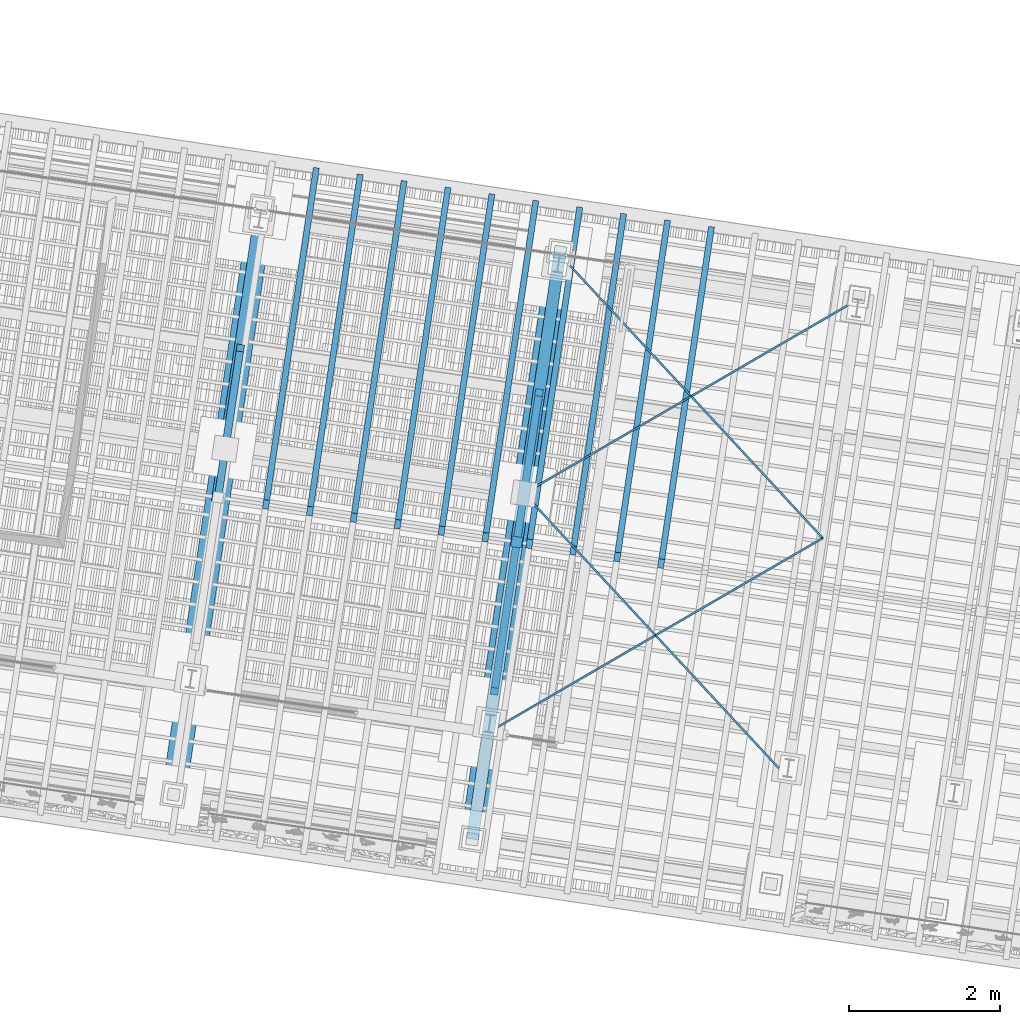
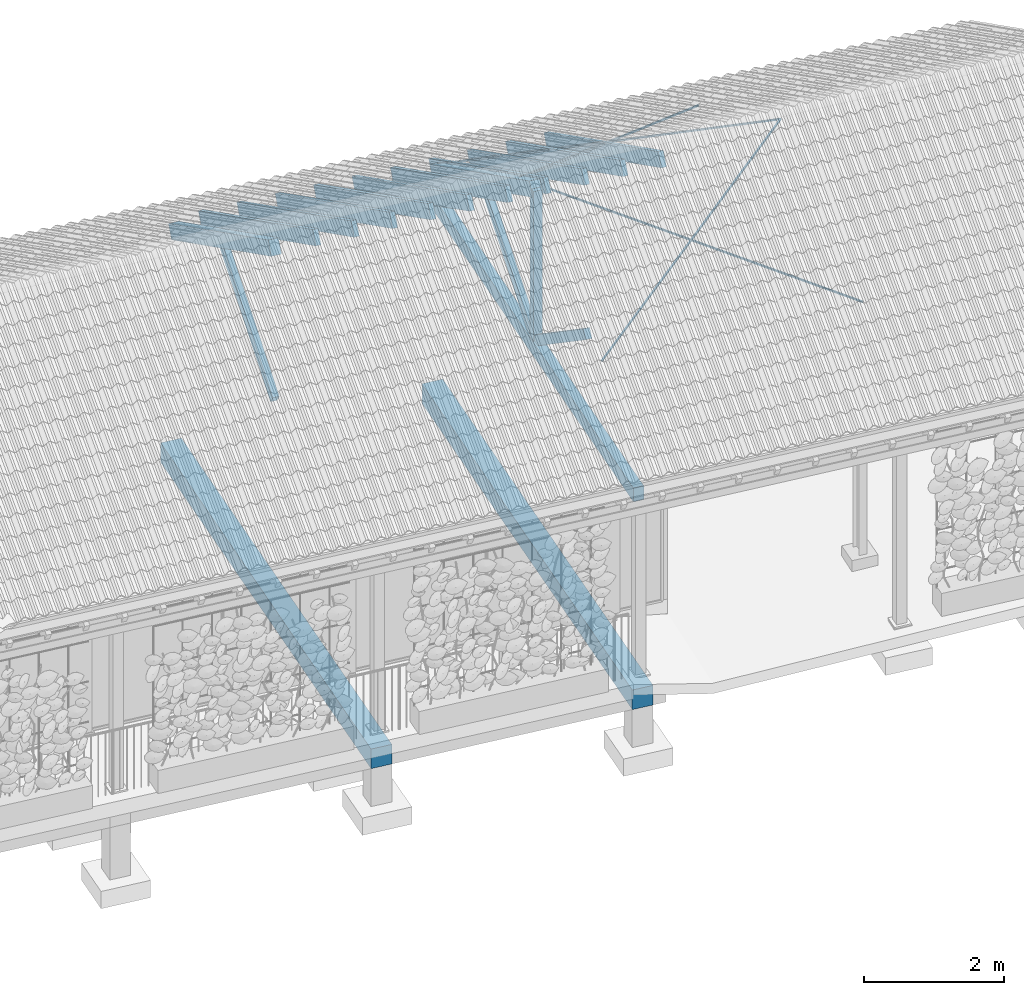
# One storey, part 95 of 131: 20 members, 3 beams, 2 elements without a shape of their own.
"""IFC4 building model written with IfcOpenShell, lengths in metres."""

from ifc_helpers import new_model, si_unit, direction, frame, origin_with_axes, place, context, subcontext, project, spatial, polyline, rectangle, outline, extrude, material, material_profile, profile_set, profile_usage, type_object, element, aggregate, save


model = new_model("IFC4")

# Units and contexts
model_context = context("Model", 3, precision=1e-05, world=origin_with_axes(), true_north=direction((0.0, 1.0)))
body_context = subcontext(model_context, "Body", "Model", "MODEL_VIEW")
ifc_project = project(units=[si_unit("AREAUNIT", "SQUARE_METRE"), si_unit("VOLUMEUNIT", "CUBIC_METRE"), si_unit("LENGTHUNIT", "METRE")], contexts=[model_context])

# Site, building, storey
site_placement = place(None, origin_with_axes())
site = spatial("IfcSite", under=ifc_project, at=site_placement, Name="Lares · Rua das Mercês · artigo 4771")
building_placement = place(site_placement, frame((15.0, 9.7, 14.65), z_axis=(0.0, 0.0, 1.0), x_axis=(0.989015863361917, -0.147809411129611, 0.0)))
building = spatial("IfcBuilding", under=site, at=building_placement, Name="Casa Sobreposta")
storey_placement = place(building_placement, origin_with_axes())
storey = spatial("IfcBuildingStorey", under=building, at=storey_placement, Name="00 · Habitação e estacionamento", Elevation=14.65)

# Roof, beam, members
ifc_material_1 = material(Name="Madeira / Bauholz", Category="wood")
roof_placement = place(storey_placement, origin_with_axes())
roof = element("IfcRoof", 1, at=roof_placement, inside=storey, material=ifc_material_1, Name="Cobertura de telha · duas águas 30 graus", PredefinedType="GABLE_ROOF")
ifc_material_profile_1 = material_profile(ifc_material_1, rectangle(XDim=0.16, YDim=0.24))
ifc_profile_set_1 = profile_set([ifc_material_profile_1], Name="TIMBER0.160x0.240")
ifc_profile_usage_1 = profile_usage(ifc_profile_set_1)
beam_type = type_object("IfcBeamType", Name="TIMBER0.160x0.240 / timber", PredefinedType="NOTDEFINED", material=ifc_profile_set_1)
beam_1_placement = place(roof_placement, frame((24.0, -1.43, 3.02), z_axis=(0.0, 1.0, 0.0), x_axis=(1.0, 0.0, 0.0)))
beam_1 = element("IfcBeam", 2, at=beam_1_placement, type_object=beam_type, material=ifc_profile_usage_1, Name="Tesoura · tirante inferior", context=body_context, shape_type="SweptSolid", body=[
    extrude(rectangle(XDim=0.16, YDim=0.24), origin_with_axes(), (0.0, 0.0, 1.0), 7.86),
])
ifc_material_profile_2 = material_profile(ifc_material_1, rectangle(XDim=0.16, YDim=0.24))
ifc_profile_set_2 = profile_set([ifc_material_profile_2], Name="TIMBER0.160x0.240")
ifc_profile_usage_2 = profile_usage(ifc_profile_set_2)
member_type_1 = type_object("IfcMemberType", Name="TIMBER0.160x0.240 / timber", PredefinedType="NOTDEFINED", material=ifc_profile_set_2)
member_1_placement = place(roof_placement, frame((20.0, 2.55, 5.74420869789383), z_axis=(0.0, 0.866025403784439, -0.5), x_axis=(1.0, 0.0, 0.0)))
member_1 = element("IfcMember", 3, at=member_1_placement, type_object=member_type_1, material=ifc_profile_usage_2, Name="Tesoura · perna", context=body_context, shape_type="SweptSolid", body=[
    extrude(rectangle(XDim=0.16, YDim=0.24), origin_with_axes(), (0.0, 0.0, 1.0), 4.4802380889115),
])
ifc_profile_usage_3 = profile_usage(ifc_profile_set_2)
member_2_placement = place(roof_placement, frame((24.0, 2.55, 5.74420869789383), z_axis=(0.0, 0.866025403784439, -0.5), x_axis=(1.0, 0.0, 0.0)))
member_2 = element("IfcMember", 4, at=member_2_placement, type_object=member_type_1, material=ifc_profile_usage_3, Name="Tesoura · perna", context=body_context, shape_type="SweptSolid", body=[
    extrude(rectangle(XDim=0.16, YDim=0.24), origin_with_axes(), (0.0, 0.0, 1.0), 4.4802380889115),
])
ifc_material_profile_3 = material_profile(ifc_material_1, rectangle(XDim=0.14, YDim=0.14))
ifc_profile_set_3 = profile_set([ifc_material_profile_3], Name="TIMBER0.140x0.140")
ifc_profile_usage_4 = profile_usage(ifc_profile_set_3)
member_type_2 = type_object("IfcMemberType", Name="TIMBER0.140x0.140 / timber", PredefinedType="NOTDEFINED", material=ifc_profile_set_3)
member_3_placement = place(roof_placement, frame((24.0, 2.55, 3.02), z_axis=(0.0, 0.0, 1.0), x_axis=(1.0, 0.0, 0.0)))
member_3 = element("IfcMember", 5, at=member_3_placement, type_object=member_type_2, material=ifc_profile_usage_4, Name="Tesoura · pendural", context=body_context, shape_type="SweptSolid", body=[
    extrude(rectangle(XDim=0.14, YDim=0.14), origin_with_axes(), (0.0, 0.0, 1.0), 2.72420869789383),
])
ifc_material_profile_4 = material_profile(ifc_material_1, rectangle(XDim=0.1, YDim=0.16))
ifc_profile_set_4 = profile_set([ifc_material_profile_4], Name="TIMBER0.100x0.160")
ifc_profile_usage_5 = profile_usage(ifc_profile_set_4)
member_type_3 = type_object("IfcMemberType", Name="TIMBER0.100x0.160 / timber", PredefinedType="NOTDEFINED", material=ifc_profile_set_4)
member_4_placement = place(roof_placement, frame((20.0, 2.55, 3.1), z_axis=(0.0, 0.816439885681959, 0.577430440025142), x_axis=(1.0, 0.0, 0.0)))
member_4 = element("IfcMember", 6, at=member_4_placement, type_object=member_type_3, material=ifc_profile_usage_5, Name="Tesoura · escora", context=body_context, shape_type="SweptSolid", body=[
    extrude(rectangle(XDim=0.1, YDim=0.16), origin_with_axes(), (0.0, 0.0, 1.0), 2.44965984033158),
])
ifc_profile_usage_6 = profile_usage(ifc_profile_set_4)
member_5_placement = place(roof_placement, frame((24.0, 2.55, 3.1), z_axis=(0.0, -0.816439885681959, 0.577430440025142), x_axis=(-1.0, 0.0, 0.0)))
member_5 = element("IfcMember", 7, at=member_5_placement, type_object=member_type_3, material=ifc_profile_usage_6, Name="Tesoura · escora", context=body_context, shape_type="SweptSolid", body=[
    extrude(rectangle(XDim=0.1, YDim=0.16), origin_with_axes(), (0.0, 0.0, 1.0), 2.44965984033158),
])
ifc_profile_usage_7 = profile_usage(ifc_profile_set_4)
member_6_placement = place(roof_placement, frame((24.0, 2.55, 3.1), z_axis=(0.0, 0.816439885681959, 0.577430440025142), x_axis=(1.0, 0.0, 0.0)))
member_6 = element("IfcMember", 8, at=member_6_placement, type_object=member_type_3, material=ifc_profile_usage_7, Name="Tesoura · escora", context=body_context, shape_type="SweptSolid", body=[
    extrude(rectangle(XDim=0.1, YDim=0.16), origin_with_axes(), (0.0, 0.0, 1.0), 2.44965984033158),
])
ifc_material_profile_5 = material_profile(ifc_material_1, rectangle(XDim=0.08, YDim=0.24))
ifc_profile_set_5 = profile_set([ifc_material_profile_5], Name="TIMBER0.080x0.240")
ifc_profile_usage_8 = profile_usage(ifc_profile_set_5)
member_type_4 = type_object("IfcMemberType", Name="TIMBER0.080x0.240 / timber", PredefinedType="NOTDEFINED", material=ifc_profile_set_5)
member_7_placement = place(roof_placement, frame((20.6424242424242, 2.55, 5.75020869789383), z_axis=(0.0, 0.866025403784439, -0.5), x_axis=(1.0, 0.0, 0.0)))
member_7 = element("IfcMember", 9, at=member_7_placement, type_object=member_type_4, material=ifc_profile_usage_8, Name="Cobertura · caibro", context=body_context, shape_type="SweptSolid", body=[
    extrude(rectangle(XDim=0.08, YDim=0.24), origin_with_axes(), (0.0, 0.0, 1.0), 5.13841739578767),
])
ifc_profile_usage_9 = profile_usage(ifc_profile_set_5)
member_8_placement = place(roof_placement, frame((21.230303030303, 2.55, 5.75020869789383), z_axis=(0.0, 0.866025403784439, -0.5), x_axis=(1.0, 0.0, 0.0)))
member_8 = element("IfcMember", 10, at=member_8_placement, type_object=member_type_4, material=ifc_profile_usage_9, Name="Cobertura · caibro", context=body_context, shape_type="SweptSolid", body=[
    extrude(rectangle(XDim=0.08, YDim=0.24), origin_with_axes(), (0.0, 0.0, 1.0), 5.13841739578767),
])
ifc_profile_usage_10 = profile_usage(ifc_profile_set_5)
member_9_placement = place(roof_placement, frame((21.8181818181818, 2.55, 5.75020869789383), z_axis=(0.0, 0.866025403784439, -0.5), x_axis=(1.0, 0.0, 0.0)))
member_9 = element("IfcMember", 11, at=member_9_placement, type_object=member_type_4, material=ifc_profile_usage_10, Name="Cobertura · caibro", context=body_context, shape_type="SweptSolid", body=[
    extrude(rectangle(XDim=0.08, YDim=0.24), origin_with_axes(), (0.0, 0.0, 1.0), 5.13841739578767),
])
ifc_profile_usage_11 = profile_usage(ifc_profile_set_5)
member_10_placement = place(roof_placement, frame((22.4060606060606, 2.55, 5.75020869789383), z_axis=(0.0, 0.866025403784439, -0.5), x_axis=(1.0, 0.0, 0.0)))
member_10 = element("IfcMember", 12, at=member_10_placement, type_object=member_type_4, material=ifc_profile_usage_11, Name="Cobertura · caibro", context=body_context, shape_type="SweptSolid", body=[
    extrude(rectangle(XDim=0.08, YDim=0.24), origin_with_axes(), (0.0, 0.0, 1.0), 5.13841739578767),
])
ifc_profile_usage_12 = profile_usage(ifc_profile_set_5)
member_11_placement = place(roof_placement, frame((22.9939393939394, 2.55, 5.75020869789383), z_axis=(0.0, 0.866025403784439, -0.5), x_axis=(1.0, 0.0, 0.0)))
member_11 = element("IfcMember", 13, at=member_11_placement, type_object=member_type_4, material=ifc_profile_usage_12, Name="Cobertura · caibro", context=body_context, shape_type="SweptSolid", body=[
    extrude(rectangle(XDim=0.08, YDim=0.24), origin_with_axes(), (0.0, 0.0, 1.0), 5.13841739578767),
])
ifc_profile_usage_13 = profile_usage(ifc_profile_set_5)
member_12_placement = place(roof_placement, frame((23.5818181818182, 2.55, 5.75020869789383), z_axis=(0.0, 0.866025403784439, -0.5), x_axis=(1.0, 0.0, 0.0)))
member_12 = element("IfcMember", 14, at=member_12_placement, type_object=member_type_4, material=ifc_profile_usage_13, Name="Cobertura · caibro", context=body_context, shape_type="SweptSolid", body=[
    extrude(rectangle(XDim=0.08, YDim=0.24), origin_with_axes(), (0.0, 0.0, 1.0), 5.13841739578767),
])
ifc_profile_usage_14 = profile_usage(ifc_profile_set_5)
member_13_placement = place(roof_placement, frame((24.169696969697, 2.55, 5.75020869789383), z_axis=(0.0, 0.866025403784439, -0.5), x_axis=(1.0, 0.0, 0.0)))
member_13 = element("IfcMember", 15, at=member_13_placement, type_object=member_type_4, material=ifc_profile_usage_14, Name="Cobertura · caibro", context=body_context, shape_type="SweptSolid", body=[
    extrude(rectangle(XDim=0.08, YDim=0.24), origin_with_axes(), (0.0, 0.0, 1.0), 5.13841739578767),
])
ifc_profile_usage_15 = profile_usage(ifc_profile_set_5)
member_14_placement = place(roof_placement, frame((24.7575757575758, 2.55, 5.75020869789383), z_axis=(0.0, 0.866025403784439, -0.5), x_axis=(1.0, 0.0, 0.0)))
member_14 = element("IfcMember", 16, at=member_14_placement, type_object=member_type_4, material=ifc_profile_usage_15, Name="Cobertura · caibro", context=body_context, shape_type="SweptSolid", body=[
    extrude(rectangle(XDim=0.08, YDim=0.24), origin_with_axes(), (0.0, 0.0, 1.0), 5.13841739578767),
])
ifc_profile_usage_16 = profile_usage(ifc_profile_set_5)
member_15_placement = place(roof_placement, frame((25.3454545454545, 2.55, 5.75020869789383), z_axis=(0.0, 0.866025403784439, -0.5), x_axis=(1.0, 0.0, 0.0)))
member_15 = element("IfcMember", 17, at=member_15_placement, type_object=member_type_4, material=ifc_profile_usage_16, Name="Cobertura · caibro", context=body_context, shape_type="SweptSolid", body=[
    extrude(rectangle(XDim=0.08, YDim=0.24), origin_with_axes(), (0.0, 0.0, 1.0), 5.13841739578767),
])
ifc_profile_usage_17 = profile_usage(ifc_profile_set_5)
member_16_placement = place(roof_placement, frame((25.9333333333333, 2.55, 5.75020869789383), z_axis=(0.0, 0.866025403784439, -0.5), x_axis=(1.0, 0.0, 0.0)))
member_16 = element("IfcMember", 18, at=member_16_placement, type_object=member_type_4, material=ifc_profile_usage_17, Name="Cobertura · caibro", context=body_context, shape_type="SweptSolid", body=[
    extrude(rectangle(XDim=0.08, YDim=0.24), origin_with_axes(), (0.0, 0.0, 1.0), 5.13841739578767),
])
ifc_material_2 = material(Name="Aço galvanizado / Stahl verzinkt", Category="steel")
ifc_material_profile_6 = material_profile(ifc_material_2, rectangle(XDim=0.025, YDim=0.025))
ifc_profile_set_6 = profile_set([ifc_material_profile_6], Name="R0.025")
ifc_profile_usage_18 = profile_usage(ifc_profile_set_6)
member_type_5 = type_object("IfcMemberType", Name="R0.025 / galvanized", PredefinedType="NOTDEFINED", material=ifc_profile_set_6)
member_17_placement = place(roof_placement, frame((24.0, 0.0, 4.39896551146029), z_axis=(0.763557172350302, 0.610845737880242, 0.209398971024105), x_axis=(0.624695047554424, -0.78086880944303, 0.0)))
member_17 = element("IfcMember", 19, at=member_17_placement, type_object=member_type_5, material=ifc_profile_usage_18, Name="Cobertura · fita de contraventamento", context=body_context, shape_type="SweptSolid", body=[
    extrude(rectangle(XDim=0.025, YDim=0.025), origin_with_axes(), (0.0, 0.0, 1.0), 5.2386384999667),
])
ifc_profile_usage_19 = profile_usage(ifc_profile_set_6)
member_18_placement = place(roof_placement, frame((24.0, 3.2, 5.49593102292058), z_axis=(0.763557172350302, -0.610845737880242, -0.209398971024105), x_axis=(-0.624695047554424, -0.78086880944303, 0.0)))
member_18 = element("IfcMember", 20, at=member_18_placement, type_object=member_type_5, material=ifc_profile_usage_19, Name="Cobertura · fita de contraventamento", context=body_context, shape_type="SweptSolid", body=[
    extrude(rectangle(XDim=0.025, YDim=0.025), origin_with_axes(), (0.0, 0.0, 1.0), 5.2386384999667),
])
ifc_profile_usage_20 = profile_usage(ifc_profile_set_6)
member_19_placement = place(roof_placement, frame((24.0, 3.2, 5.49593102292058), z_axis=(0.734553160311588, 0.58764252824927, -0.339275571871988), x_axis=(0.624695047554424, -0.78086880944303, 0.0)))
member_19 = element("IfcMember", 21, at=member_19_placement, type_object=member_type_5, material=ifc_profile_usage_20, Name="Cobertura · fita de contraventamento", context=body_context, shape_type="SweptSolid", body=[
    extrude(rectangle(XDim=0.025, YDim=0.025), origin_with_axes(), (0.0, 0.0, 1.0), 5.44548742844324),
])
ifc_profile_usage_21 = profile_usage(ifc_profile_set_6)
member_20_placement = place(roof_placement, frame((24.0, 6.4, 3.64841016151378), z_axis=(0.734553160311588, -0.58764252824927, 0.339275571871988), x_axis=(-0.624695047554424, -0.78086880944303, 0.0)))
member_20 = element("IfcMember", 22, at=member_20_placement, type_object=member_type_5, material=ifc_profile_usage_21, Name="Cobertura · fita de contraventamento", context=body_context, shape_type="SweptSolid", body=[
    extrude(rectangle(XDim=0.025, YDim=0.025), origin_with_axes(), (0.0, 0.0, 1.0), 5.44548742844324),
])
aggregate(roof, [member_1, member_4, beam_1, member_2, member_3, member_5, member_6, member_7, member_8, member_9, member_10, member_11, member_12, member_13, member_14, member_15, member_16, member_17, member_18, member_19, member_20])

# Assembly, beams
assembly_placement = place(storey_placement, origin_with_axes())
assembly = element("IfcElementAssembly", 23, at=assembly_placement, inside=storey, Name="Pódio · terraço, casa térrea e cisterna", ObjectType="CISTERN_PODIUM", PredefinedType="USERDEFINED")
ifc_material_3 = material(Name="Betão armado / Stahlbeton", Category="concrete")
beam_2_placement = place(assembly_placement, frame((0.0, 0.0, -0.59), z_axis=(0.0, 0.0, 1.0), x_axis=(1.0, 0.0, 0.0)))
beam_2 = element("IfcBeam", 24, at=beam_2_placement, material=ifc_material_3, Name="Pódio suspenso · viga transversal", context=body_context, shape_type="SweptSolid", body=[
    extrude(outline(polyline([(20.16, -1.59), (20.16, 6.59), (19.84, 6.59), (19.84, -1.59), (20.16, -1.59)])), origin_with_axes(), (0.0, 0.0, 1.0), 0.34),
])
beam_3_placement = place(assembly_placement, frame((0.0, 0.0, -0.59), z_axis=(0.0, 0.0, 1.0), x_axis=(1.0, 0.0, 0.0)))
beam_3 = element("IfcBeam", 25, at=beam_3_placement, material=ifc_material_3, Name="Pódio suspenso · viga transversal", context=body_context, shape_type="SweptSolid", body=[
    extrude(outline(polyline([(24.16, -1.59), (24.16, 6.59), (23.84, 6.59), (23.84, -1.59), (24.16, -1.59)])), origin_with_axes(), (0.0, 0.0, 1.0), 0.34),
])
aggregate(assembly, [beam_2, beam_3])

save(model, "model.ifc")
